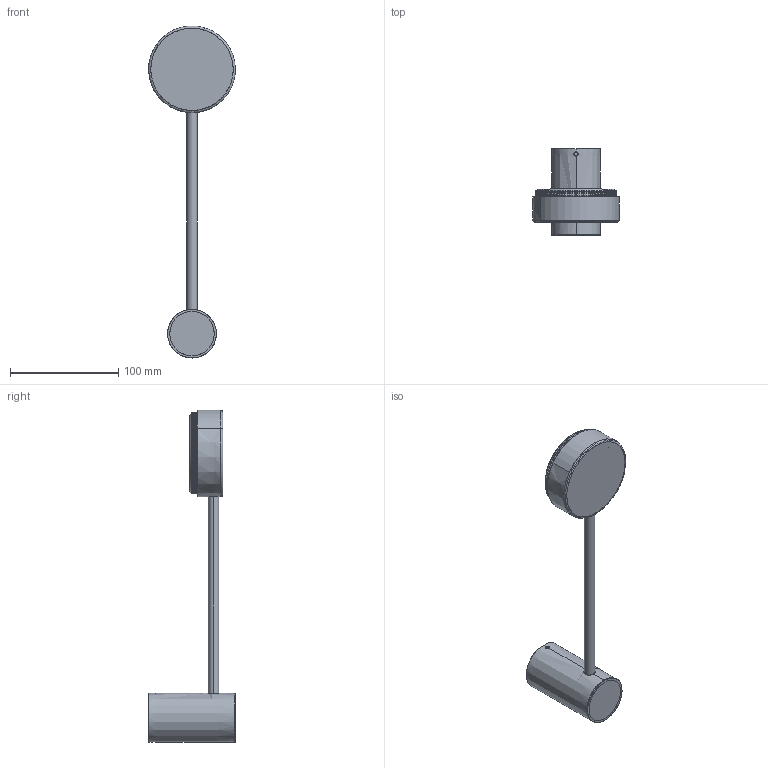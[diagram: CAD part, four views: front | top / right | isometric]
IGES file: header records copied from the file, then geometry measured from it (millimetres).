
Start section: SolidWorks IGES file using analytic representation for surfaces
Global section: file name: Z:\Modele 3D_WWW\_KOLEKCJE_WWW\ORBIT\ORBIT-I-KINKIET-20-7806-7803\ORBIT-I-KINKIET-20-7806-7803.IGS; native system: SolidWorks 2021; preprocessor: SolidWorks 2021; author: gabriela.tworek; date: 210831.100451; units: millimetre
Bounding box: 79.97 x 80 x 306.49 mm (x, y, z)
Surface area: 79102.3 mm2 (no closed solid volume)
Topology: 0 solids, 0 shells, 1293 faces, 10305 edges, 10301 vertices
Faces by surface type: bspline 761, revolution 532
